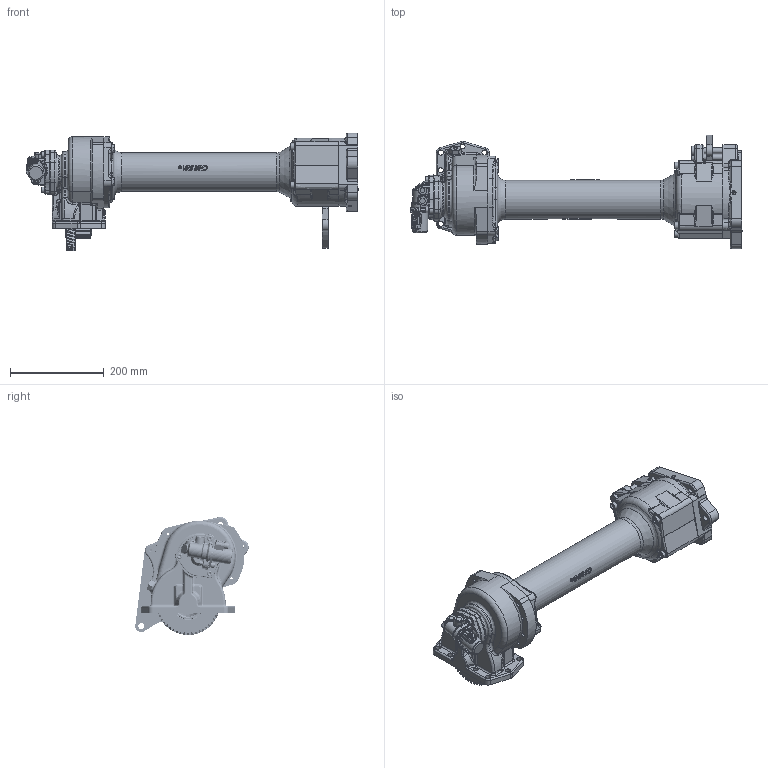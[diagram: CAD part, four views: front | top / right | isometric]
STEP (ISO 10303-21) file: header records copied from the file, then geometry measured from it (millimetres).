
FILE_DESCRIPTION((''),'2;1');
FILE_NAME('K:\Inventor CAD\JBohn WIP\pcn\STP AND STL MODELS\step models\890 MD EVS LEFT.stp','2009-05-11T17:52:43',('jba7756'),(''),'Autodesk Inventor 2008','Autodesk Inventor 2008','');
FILE_SCHEMA(('AUTOMOTIVE_DESIGN { 1 0 10303 214 1 1 1 1 }'));
Length unit declared in the file: inch
Products named in the file (3): 890 MD EVS LEFT; 890 LEFT; 50-P-72
Assembly tree (2 placements, depth 2):
  890 MD EVS LEFT
    890 LEFT
    50-P-72
Bounding box: 708.73 x 241.96 x 251.72 mm (x, y, z)
Volume: 4098729.1 mm3; surface area: 825963.8 mm2
Topology: 5 solids, 5 shells, 5723 faces, 15329 edges, 9662 vertices
Faces by surface type: cylinder 1977, plane 1707, bspline 1579, torus 263, cone 190, sphere 7
Full cylindrical faces by diameter (mm): 0.8 x1, 1.905 x1, 2.388 x1, 3.175 x1, 4.699 x1, 4.75 x1, 6.35 x1, 7.836 x5, 7.925 x4, 7.95 x1, 8.331 x1, 10.795 x2, 11.12 x1, 11.76 x4, 12.7 x4, 13.005 x3, 13.487 x1, 13.589 x4, 13.614 x3, 13.767 x1, 14.122 x4, 14.338 x1, 14.351 x1, 16.129 x2, 17.272 x2, 17.78 x2, 18.034 x1, 18.415 x1, 18.847 x2, 18.974 x2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
Entity records: 268625 total; most frequent: CARTESIAN_POINT 131712, ORIENTED_EDGE 29696, DIRECTION 24124, EDGE_CURVE 14848, VERTEX_POINT 9536, AXIS2_PLACEMENT_3D 9076, EDGE_LOOP 6380, VECTOR 5972
